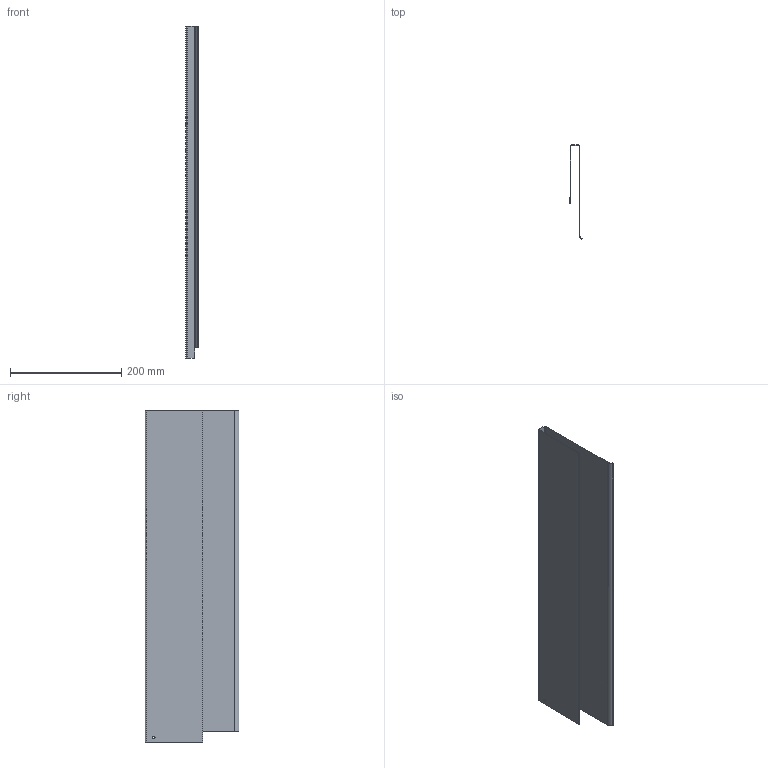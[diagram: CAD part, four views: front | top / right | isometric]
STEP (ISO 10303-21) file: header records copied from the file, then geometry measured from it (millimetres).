
FILE_DESCRIPTION (( 'STEP AP203' ), '1' );
FILE_NAME ('Nova Pro Duowing HRW H186 Deluxe links_NL600.step', '2014-02-14T12:25:25', ( 'test' ), ( '' ), 'SwSTEP 2.0', 'SolidWorks 2013', '' );
FILE_SCHEMA (( 'CONFIG_CONTROL_DESIGN' ));
Length unit declared in the file: millimetre
Products named in the file (1): Nova Pro Duowing HRW H186 Deluxe links_NL600
Bounding box: 21.82 x 169 x 597.5 mm (x, y, z)
Volume: 84527.5 mm3; surface area: 339003.5 mm2
Topology: 1 solids, 1 shells, 29 faces, 66 edges, 39 vertices
Faces by surface type: plane 20, cylinder 9
Entity records: 876 total; most frequent: CARTESIAN_POINT 147, DIRECTION 137, ORIENTED_EDGE 132, EDGE_CURVE 66, LINE 47, VECTOR 47, AXIS2_PLACEMENT_3D 45, VERTEX_POINT 39
